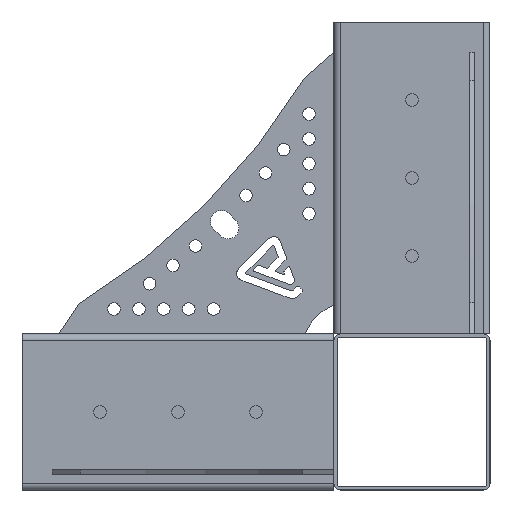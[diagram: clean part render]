
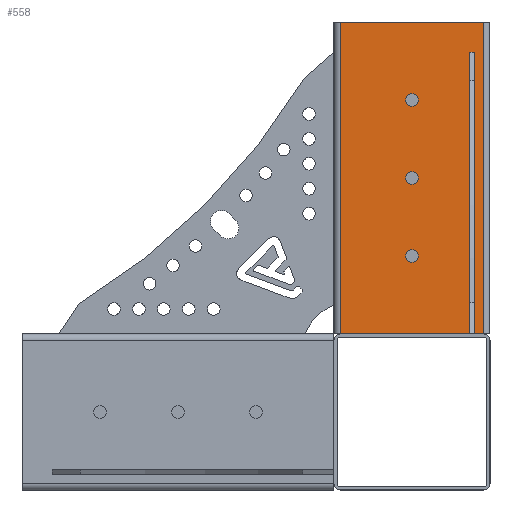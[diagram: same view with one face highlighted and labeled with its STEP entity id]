
A CAD part, left-side view. The second image highlights one B-rep face of the part: STEP entity #558.
In plain terms, the highlighted planar face has unit normal (-1, 0, 0).
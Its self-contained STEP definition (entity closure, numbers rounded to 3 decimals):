
#558=ADVANCED_FACE('',(#2622,#2624,#2626,#2628),#2630,.T.);
#2622=FACE_BOUND('',#2623,.T.);
#2623=EDGE_LOOP('',(#4318,#4319,#4320,#4321));
#2624=FACE_BOUND('',#2625,.T.);
#2625=EDGE_LOOP('',(#4322));
#2626=FACE_BOUND('',#2627,.T.);
#2627=EDGE_LOOP('',(#4323));
#2628=FACE_BOUND('',#2629,.T.);
#2629=EDGE_LOOP('',(#4324));
#2630=PLANE('',#2631);
#2631=AXIS2_PLACEMENT_3D('',#2632,#2633,#2634);
#2632=CARTESIAN_POINT('',(-50.,-250.,-46.));
#2633=DIRECTION('',(-1.,0.,0.));
#2634=DIRECTION('',(0.,0.,1.));
#4318=ORIENTED_EDGE('',*,*,#5558,.T.);
#4319=ORIENTED_EDGE('',*,*,#5551,.T.);
#4320=ORIENTED_EDGE('',*,*,#5559,.F.);
#4321=ORIENTED_EDGE('',*,*,#5547,.F.);
#4322=ORIENTED_EDGE('',*,*,#5560,.T.);
#4323=ORIENTED_EDGE('',*,*,#5561,.T.);
#4324=ORIENTED_EDGE('',*,*,#5562,.T.);
#5547=EDGE_CURVE('',#6294,#6296,#6297,.T.);
#5551=EDGE_CURVE('',#6299,#6301,#6303,.T.);
#5558=EDGE_CURVE('',#6294,#6299,#6314,.F.);
#5559=EDGE_CURVE('',#6296,#6301,#6315,.T.);
#5560=EDGE_CURVE('',#6316,#6316,#6317,.F.);
#5561=EDGE_CURVE('',#6318,#6318,#6319,.F.);
#5562=EDGE_CURVE('',#6320,#6320,#6321,.F.);
#6294=VERTEX_POINT('',#7694);
#6296=VERTEX_POINT('',#7699);
#6297=LINE('',#7700,#7701);
#6299=VERTEX_POINT('',#7707);
#6301=VERTEX_POINT('',#7712);
#6303=LINE('',#7717,#7718);
#6314=LINE('',#7746,#7747);
#6315=LINE('',#7749,#7750);
#6316=VERTEX_POINT('',#7752);
#6317=CIRCLE('',#7753,4.);
#6318=VERTEX_POINT('',#7757);
#6319=CIRCLE('',#7758,4.);
#6320=VERTEX_POINT('',#7762);
#6321=CIRCLE('',#7763,4.);
#7694=CARTESIAN_POINT('',(-50.,-200.,-46.));
#7699=CARTESIAN_POINT('',(-50.,0.,-46.));
#7700=CARTESIAN_POINT('',(-50.,-200.,-46.));
#7701=VECTOR('',#7702,1.);
#7702=DIRECTION('',(0.,1.,0.));
#7707=CARTESIAN_POINT('',(-50.,-200.,46.));
#7712=CARTESIAN_POINT('',(-50.,0.,46.));
#7717=CARTESIAN_POINT('',(-50.,-200.,46.));
#7718=VECTOR('',#7719,1.);
#7719=DIRECTION('',(0.,1.,0.));
#7746=CARTESIAN_POINT('',(-50.,-200.,46.));
#7747=VECTOR('',#7748,1.);
#7748=DIRECTION('',(0.,0.,-1.));
#7749=CARTESIAN_POINT('',(-50.,0.,-46.));
#7750=VECTOR('',#7751,1.);
#7751=DIRECTION('',(0.,0.,1.));
#7752=CARTESIAN_POINT('',(-50.,-154.,0.));
#7753=AXIS2_PLACEMENT_3D('',#7754,#7755,#7756);
#7754=CARTESIAN_POINT('',(-50.,-150.,0.));
#7755=DIRECTION('',(-1.,0.,0.));
#7756=DIRECTION('',(0.,-1.,0.));
#7757=CARTESIAN_POINT('',(-50.,-104.,0.));
#7758=AXIS2_PLACEMENT_3D('',#7759,#7760,#7761);
#7759=CARTESIAN_POINT('',(-50.,-100.,0.));
#7760=DIRECTION('',(-1.,0.,0.));
#7761=DIRECTION('',(0.,-1.,0.));
#7762=CARTESIAN_POINT('',(-50.,-54.,0.));
#7763=AXIS2_PLACEMENT_3D('',#7764,#7765,#7766);
#7764=CARTESIAN_POINT('',(-50.,-50.,0.));
#7765=DIRECTION('',(-1.,0.,0.));
#7766=DIRECTION('',(0.,-1.,0.));
